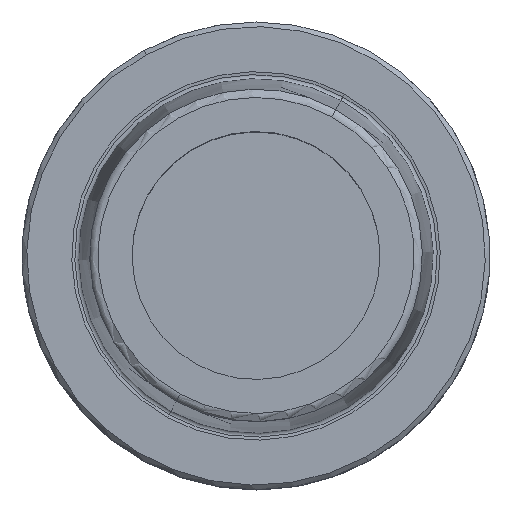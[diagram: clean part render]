
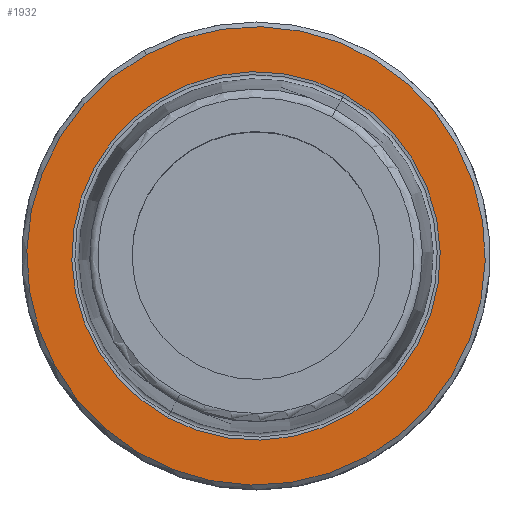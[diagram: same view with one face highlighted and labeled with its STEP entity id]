
A CAD part, top view. The second image highlights one B-rep face of the part: STEP entity #1932.
In plain terms, the highlighted planar face has unit normal (0, 0, 1).
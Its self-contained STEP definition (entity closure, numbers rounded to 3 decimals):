
#1874=AXIS2_PLACEMENT_3D('Circle Axis2P3D',#1872,#1873,$) ;
#1894=AXIS2_PLACEMENT_3D('Circle Axis2P3D',#1892,#1893,$) ;
#1908=AXIS2_PLACEMENT_3D('Plane Axis2P3D',#1905,#1906,#1907) ;
#1916=AXIS2_PLACEMENT_3D('Circle Axis2P3D',#1914,#1915,$) ;
#1925=AXIS2_PLACEMENT_3D('Circle Axis2P3D',#1923,#1924,$) ;
#1869=CARTESIAN_POINT('Vertex',(23.492,-43.002,0.)) ;
#1872=CARTESIAN_POINT('Axis2P3D Location',(0.,0.,0.)) ;
#1876=CARTESIAN_POINT('Vertex',(-23.492,43.002,0.)) ;
#1892=CARTESIAN_POINT('Axis2P3D Location',(0.,0.,0.)) ;
#1905=CARTESIAN_POINT('Axis2P3D Location',(0.,-38.285,0.)) ;
#1914=CARTESIAN_POINT('Axis2P3D Location',(0.,0.,0.)) ;
#1918=CARTESIAN_POINT('Vertex',(18.88,34.56,0.)) ;
#1920=CARTESIAN_POINT('Vertex',(-18.88,-34.56,0.)) ;
#1923=CARTESIAN_POINT('Axis2P3D Location',(0.,0.,0.)) ;
#1873=DIRECTION('Axis2P3D Direction',(0.,0.,-1.)) ;
#1893=DIRECTION('Axis2P3D Direction',(0.,0.,-1.)) ;
#1906=DIRECTION('Axis2P3D Direction',(0.,0.,-1.)) ;
#1907=DIRECTION('Axis2P3D XDirection',(-1.,0.,0.)) ;
#1915=DIRECTION('Axis2P3D Direction',(0.,0.,-1.)) ;
#1924=DIRECTION('Axis2P3D Direction',(0.,0.,-1.)) ;
#1911=ORIENTED_EDGE('',*,*,#1878,.F.) ;
#1912=ORIENTED_EDGE('',*,*,#1896,.F.) ;
#1929=ORIENTED_EDGE('',*,*,#1922,.T.) ;
#1930=ORIENTED_EDGE('',*,*,#1927,.T.) ;
#1931=FACE_BOUND('',#1928,.T.) ;
#1932=ADVANCED_FACE('NOCUT',(#1913,#1931),#1909,.F.) ;
#1875=CIRCLE('generated circle',#1874,49.) ;
#1895=CIRCLE('generated circle',#1894,49.) ;
#1917=CIRCLE('generated circle',#1916,39.381) ;
#1926=CIRCLE('generated circle',#1925,39.381) ;
#1878=EDGE_CURVE('',#1870,#1877,#1875,.T.) ;
#1896=EDGE_CURVE('',#1877,#1870,#1895,.T.) ;
#1922=EDGE_CURVE('',#1919,#1921,#1917,.T.) ;
#1927=EDGE_CURVE('',#1921,#1919,#1926,.T.) ;
#1910=EDGE_LOOP('',(#1911,#1912)) ;
#1928=EDGE_LOOP('',(#1929,#1930)) ;
#1913=FACE_OUTER_BOUND('',#1910,.T.) ;
#1909=PLANE('',#1908) ;
#1870=VERTEX_POINT('',#1869) ;
#1877=VERTEX_POINT('',#1876) ;
#1919=VERTEX_POINT('',#1918) ;
#1921=VERTEX_POINT('',#1920) ;
